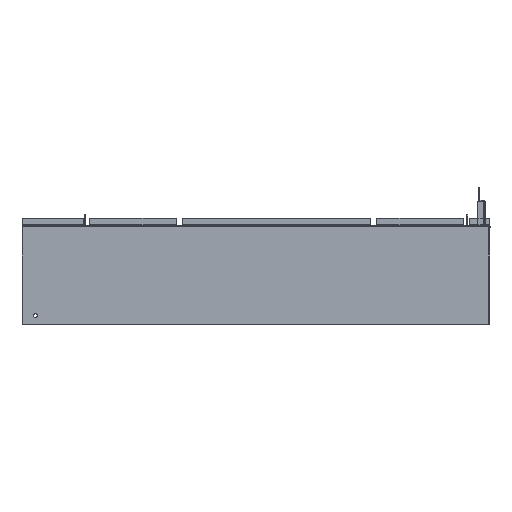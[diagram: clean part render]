
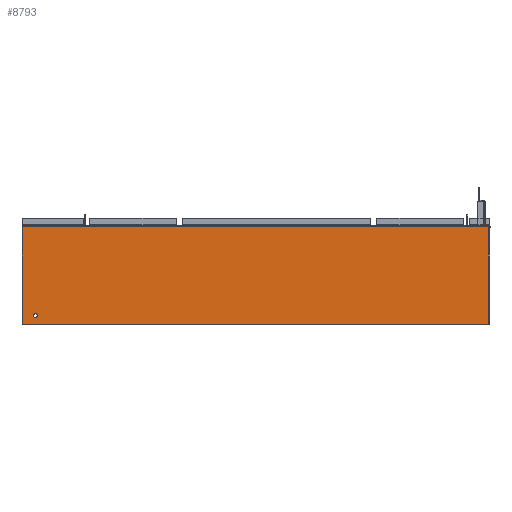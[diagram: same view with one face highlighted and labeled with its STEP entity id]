
A CAD part, left-side view. The second image highlights one B-rep face of the part: STEP entity #8793.
In plain terms, the highlighted planar face has unit normal (1, 0, 0).
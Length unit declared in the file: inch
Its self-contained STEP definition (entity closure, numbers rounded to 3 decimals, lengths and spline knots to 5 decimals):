
#273 = AXIS2_PLACEMENT_3D ( 'NONE', #7693, #7295, #14600 ) ;
#724 = DIRECTION ( 'NONE',  ( 0., 1., 0. ) ) ;
#744 = DIRECTION ( 'NONE',  ( 1., 0., 0. ) ) ;
#774 = CARTESIAN_POINT ( 'NONE',  ( 0.022, 6.4325, -0.85687 ) ) ;
#1518 = AXIS2_PLACEMENT_3D ( 'NONE', #7267, #7260, #7246 ) ;
#1586 = VERTEX_POINT ( 'NONE', #15062 ) ;
#2564 = LINE ( 'NONE', #12551, #6264 ) ;
#2807 = CARTESIAN_POINT ( 'NONE',  ( 0.022, 6.5575, -0.85687 ) ) ;
#3203 = VERTEX_POINT ( 'NONE', #2807 ) ;
#4203 = CARTESIAN_POINT ( 'NONE',  ( 0.022, 6.3075, -0.85687 ) ) ;
#6068 = EDGE_LOOP ( 'NONE', ( #9738, #8594 ) ) ;
#6264 = VECTOR ( 'NONE', #12811, 39.37008 ) ;
#6778 = AXIS2_PLACEMENT_3D ( 'NONE', #774, #744, #724 ) ;
#7094 = EDGE_CURVE ( 'NONE', #7459, #3203, #15526, .T. ) ;
#7246 = DIRECTION ( 'NONE',  ( 0., -1., 0. ) ) ;
#7260 = DIRECTION ( 'NONE',  ( -1., 0., 0. ) ) ;
#7267 = CARTESIAN_POINT ( 'NONE',  ( 0.022, 6.995, -29.89025 ) ) ;
#7295 = DIRECTION ( 'NONE',  ( 1., 0., 0. ) ) ;
#7328 = EDGE_CURVE ( 'NONE', #3203, #7459, #17013, .T. ) ;
#7377 = PLANE ( 'NONE',  #1518 ) ;
#7459 = VERTEX_POINT ( 'NONE', #4203 ) ;
#7693 = CARTESIAN_POINT ( 'NONE',  ( 0.022, 6.4325, -0.85687 ) ) ;
#7859 = VERTEX_POINT ( 'NONE', #16978 ) ;
#7870 = VECTOR ( 'NONE', #15896, 39.37008 ) ;
#7936 = LINE ( 'NONE', #16064, #7870 ) ;
#7996 = LINE ( 'NONE', #17572, #12730 ) ;
#8024 = EDGE_CURVE ( 'NONE', #1586, #7859, #7936, .T. ) ;
#8594 = ORIENTED_EDGE ( 'NONE', *, *, #7094, .F. ) ;
#8793 = ADVANCED_FACE ( 'NONE', ( #10327, #17446 ), #7377, .F. ) ;
#9738 = ORIENTED_EDGE ( 'NONE', *, *, #7328, .F. ) ;
#9898 = ORIENTED_EDGE ( 'NONE', *, *, #10236, .F. ) ;
#10236 = EDGE_CURVE ( 'NONE', #1586, #12778, #7996, .T. ) ;
#10319 = ORIENTED_EDGE ( 'NONE', *, *, #8024, .T. ) ;
#10327 = FACE_OUTER_BOUND ( 'NONE', #15584, .T. ) ;
#10837 = VECTOR ( 'NONE', #11233, 39.37008 ) ;
#10941 = CARTESIAN_POINT ( 'NONE',  ( 0.022, 6.995, -29.84338 ) ) ;
#11233 = DIRECTION ( 'NONE',  ( 0., -1., 0. ) ) ;
#12305 = EDGE_CURVE ( 'NONE', #14170, #7859, #2564, .T. ) ;
#12551 = CARTESIAN_POINT ( 'NONE',  ( 0.022, 0.76425, -29.89025 ) ) ;
#12730 = VECTOR ( 'NONE', #17550, 39.37008 ) ;
#12778 = VERTEX_POINT ( 'NONE', #13454 ) ;
#12811 = DIRECTION ( 'NONE',  ( 0., 0., 1. ) ) ;
#13261 = CARTESIAN_POINT ( 'NONE',  ( 0.022, 0.76425, -29.84338 ) ) ;
#13454 = CARTESIAN_POINT ( 'NONE',  ( 0.022, 6.995, -29.84338 ) ) ;
#13877 = ORIENTED_EDGE ( 'NONE', *, *, #15621, .F. ) ;
#14170 = VERTEX_POINT ( 'NONE', #13261 ) ;
#14207 = ORIENTED_EDGE ( 'NONE', *, *, #12305, .F. ) ;
#14600 = DIRECTION ( 'NONE',  ( 0., 1., 0. ) ) ;
#15062 = CARTESIAN_POINT ( 'NONE',  ( 0.022, 6.995, 0. ) ) ;
#15526 = CIRCLE ( 'NONE', #6778, 0.125 ) ;
#15584 = EDGE_LOOP ( 'NONE', ( #14207, #13877, #9898, #10319 ) ) ;
#15621 = EDGE_CURVE ( 'NONE', #12778, #14170, #17053, .T. ) ;
#15896 = DIRECTION ( 'NONE',  ( 0., -1., 0. ) ) ;
#16064 = CARTESIAN_POINT ( 'NONE',  ( 0.022, 0.6325, 0. ) ) ;
#16978 = CARTESIAN_POINT ( 'NONE',  ( 0.022, 0.76425, 0. ) ) ;
#17013 = CIRCLE ( 'NONE', #273, 0.125 ) ;
#17053 = LINE ( 'NONE', #10941, #10837 ) ;
#17446 = FACE_BOUND ( 'NONE', #6068, .T. ) ;
#17550 = DIRECTION ( 'NONE',  ( 0., 0., -1. ) ) ;
#17572 = CARTESIAN_POINT ( 'NONE',  ( 0.022, 6.995, -29.89025 ) ) ;
